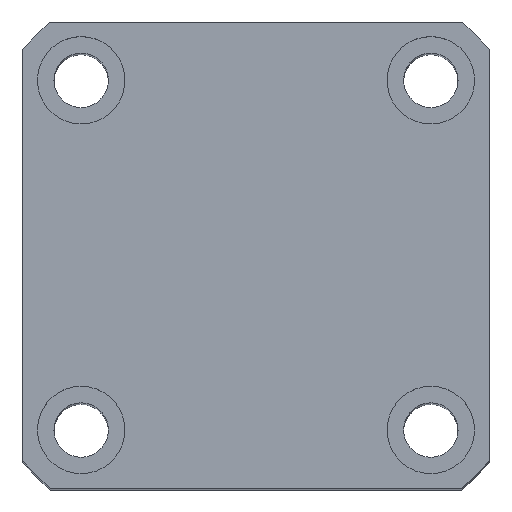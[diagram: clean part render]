
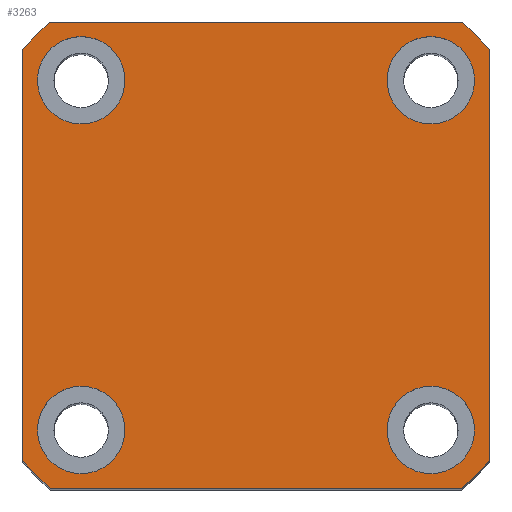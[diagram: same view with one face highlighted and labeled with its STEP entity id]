
A CAD part, top view. The second image highlights one B-rep face of the part: STEP entity #3263.
In plain terms, the highlighted planar face has unit normal (0, 0, 1) as drawn and (1, 0, 0) by its records, which use the part's own axes.
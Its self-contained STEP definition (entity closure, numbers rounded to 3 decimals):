
#14 = CARTESIAN_POINT ( 'NONE',  ( 105., 24., 21.166 ) ) ;
#86 = CIRCLE ( 'NONE', #2182, 4.5 ) ;
#116 = CARTESIAN_POINT ( 'NONE',  ( 105., 24., -21.166 ) ) ;
#147 = EDGE_CURVE ( 'NONE', #1904, #211, #4562, .T. ) ;
#211 = VERTEX_POINT ( 'NONE', #4407 ) ;
#230 = CARTESIAN_POINT ( 'NONE',  ( 105., -18., -13.5 ) ) ;
#269 = CIRCLE ( 'NONE', #853, 4.5 ) ;
#294 = VECTOR ( 'NONE', #6448, 1000. ) ;
#410 = EDGE_LOOP ( 'NONE', ( #3171, #1523 ) ) ;
#605 = CARTESIAN_POINT ( 'NONE',  ( 105., 18., 13.5 ) ) ;
#690 = DIRECTION ( 'NONE',  ( 1., 0., 0. ) ) ;
#749 = CIRCLE ( 'NONE', #1299, 32. ) ;
#853 = AXIS2_PLACEMENT_3D ( 'NONE', #5718, #2062, #6330 ) ;
#1184 = ORIENTED_EDGE ( 'NONE', *, *, #6165, .F. ) ;
#1268 = DIRECTION ( 'NONE',  ( 1., 0., 0. ) ) ;
#1299 = AXIS2_PLACEMENT_3D ( 'NONE', #2387, #5491, #1787 ) ;
#1329 = VERTEX_POINT ( 'NONE', #5703 ) ;
#1373 = AXIS2_PLACEMENT_3D ( 'NONE', #6855, #3209, #7497 ) ;
#1390 = EDGE_CURVE ( 'NONE', #5564, #4987, #86, .T. ) ;
#1474 = EDGE_CURVE ( 'NONE', #2074, #2312, #7877, .T. ) ;
#1514 = CARTESIAN_POINT ( 'NONE',  ( 105., 18., 18. ) ) ;
#1523 = ORIENTED_EDGE ( 'NONE', *, *, #7178, .F. ) ;
#1692 = CARTESIAN_POINT ( 'NONE',  ( 105., -24., 21.166 ) ) ;
#1702 = FACE_BOUND ( 'NONE', #410, .T. ) ;
#1787 = DIRECTION ( 'NONE',  ( 0., 0., -1. ) ) ;
#1788 = VERTEX_POINT ( 'NONE', #605 ) ;
#1904 = VERTEX_POINT ( 'NONE', #4294 ) ;
#1946 = VERTEX_POINT ( 'NONE', #116 ) ;
#2018 = ORIENTED_EDGE ( 'NONE', *, *, #6705, .T. ) ;
#2024 = ORIENTED_EDGE ( 'NONE', *, *, #5172, .T. ) ;
#2062 = DIRECTION ( 'NONE',  ( 1., 0., 0. ) ) ;
#2074 = VERTEX_POINT ( 'NONE', #4124 ) ;
#2128 = CARTESIAN_POINT ( 'NONE',  ( 105., 24., 24. ) ) ;
#2147 = DIRECTION ( 'NONE',  ( 0., 0., -1. ) ) ;
#2156 = CARTESIAN_POINT ( 'NONE',  ( 105., 18., 18. ) ) ;
#2163 = CARTESIAN_POINT ( 'NONE',  ( 105., 0., 0. ) ) ;
#2182 = AXIS2_PLACEMENT_3D ( 'NONE', #6687, #6007, #5904 ) ;
#2215 = ORIENTED_EDGE ( 'NONE', *, *, #4808, .T. ) ;
#2295 = VECTOR ( 'NONE', #7752, 1000. ) ;
#2299 = AXIS2_PLACEMENT_3D ( 'NONE', #1514, #5800, #2147 ) ;
#2312 = VERTEX_POINT ( 'NONE', #1692 ) ;
#2387 = CARTESIAN_POINT ( 'NONE',  ( 105., 0., 0. ) ) ;
#2412 = ORIENTED_EDGE ( 'NONE', *, *, #2894, .T. ) ;
#2428 = DIRECTION ( 'NONE',  ( 1., 0., 0. ) ) ;
#2480 = EDGE_CURVE ( 'NONE', #5771, #2074, #7496, .T. ) ;
#2524 = AXIS2_PLACEMENT_3D ( 'NONE', #2715, #6971, #3319 ) ;
#2533 = CARTESIAN_POINT ( 'NONE',  ( 105., 21.166, 24. ) ) ;
#2573 = EDGE_CURVE ( 'NONE', #6506, #3183, #749, .T. ) ;
#2575 = CARTESIAN_POINT ( 'NONE',  ( 105., -24., -21.166 ) ) ;
#2596 = VECTOR ( 'NONE', #6173, 1000. ) ;
#2688 = ORIENTED_EDGE ( 'NONE', *, *, #7418, .F. ) ;
#2715 = CARTESIAN_POINT ( 'NONE',  ( 105., 18., -18. ) ) ;
#2772 = DIRECTION ( 'NONE',  ( 0., 0., -1. ) ) ;
#2779 = DIRECTION ( 'NONE',  ( 0., 0., -1. ) ) ;
#2894 = EDGE_CURVE ( 'NONE', #3183, #3603, #7176, .T. ) ;
#3003 = CIRCLE ( 'NONE', #2299, 4.5 ) ;
#3089 = CARTESIAN_POINT ( 'NONE',  ( 105., 24., 24. ) ) ;
#3171 = ORIENTED_EDGE ( 'NONE', *, *, #7147, .F. ) ;
#3174 = CIRCLE ( 'NONE', #1373, 4.5 ) ;
#3181 = AXIS2_PLACEMENT_3D ( 'NONE', #3495, #7797, #4104 ) ;
#3183 = VERTEX_POINT ( 'NONE', #7394 ) ;
#3192 = AXIS2_PLACEMENT_3D ( 'NONE', #4379, #690, #4983 ) ;
#3202 = ORIENTED_EDGE ( 'NONE', *, *, #1390, .F. ) ;
#3209 = DIRECTION ( 'NONE',  ( 1., 0., 0. ) ) ;
#3234 = AXIS2_PLACEMENT_3D ( 'NONE', #2163, #6427, #2779 ) ;
#3263 = ADVANCED_FACE ( 'NONE', ( #4976, #6394, #1702, #6788, #3348 ), #4812, .T. ) ;
#3316 = CARTESIAN_POINT ( 'NONE',  ( 105., 21.166, -24. ) ) ;
#3319 = DIRECTION ( 'NONE',  ( 0., 0., -1. ) ) ;
#3348 = FACE_OUTER_BOUND ( 'NONE', #4874, .T. ) ;
#3359 = CIRCLE ( 'NONE', #2524, 4.5 ) ;
#3462 = ORIENTED_EDGE ( 'NONE', *, *, #2480, .T. ) ;
#3495 = CARTESIAN_POINT ( 'NONE',  ( 105., 0., 0. ) ) ;
#3548 = ORIENTED_EDGE ( 'NONE', *, *, #2573, .T. ) ;
#3584 = LINE ( 'NONE', #2128, #294 ) ;
#3603 = VERTEX_POINT ( 'NONE', #3316 ) ;
#3824 = ORIENTED_EDGE ( 'NONE', *, *, #7873, .F. ) ;
#3873 = CARTESIAN_POINT ( 'NONE',  ( 105., -18., 18. ) ) ;
#3882 = LINE ( 'NONE', #3934, #7331 ) ;
#3926 = EDGE_LOOP ( 'NONE', ( #1184, #2688 ) ) ;
#3934 = CARTESIAN_POINT ( 'NONE',  ( 105., -24., 24. ) ) ;
#4062 = CARTESIAN_POINT ( 'NONE',  ( 105., 24., -24. ) ) ;
#4104 = DIRECTION ( 'NONE',  ( 0., 0., -1. ) ) ;
#4124 = CARTESIAN_POINT ( 'NONE',  ( 105., -21.166, 24. ) ) ;
#4294 = CARTESIAN_POINT ( 'NONE',  ( 105., -18., 13.5 ) ) ;
#4379 = CARTESIAN_POINT ( 'NONE',  ( 105., -18., 18. ) ) ;
#4407 = CARTESIAN_POINT ( 'NONE',  ( 105., -18., 22.5 ) ) ;
#4486 = EDGE_CURVE ( 'NONE', #2312, #6506, #3882, .T. ) ;
#4511 = ORIENTED_EDGE ( 'NONE', *, *, #1474, .T. ) ;
#4515 = CIRCLE ( 'NONE', #3192, 4.5 ) ;
#4562 = CIRCLE ( 'NONE', #5607, 4.5 ) ;
#4648 = AXIS2_PLACEMENT_3D ( 'NONE', #4766, #4741, #5416 ) ;
#4741 = DIRECTION ( 'NONE',  ( 1., 0., 0. ) ) ;
#4766 = CARTESIAN_POINT ( 'NONE',  ( 105., 0., 0. ) ) ;
#4802 = ORIENTED_EDGE ( 'NONE', *, *, #147, .F. ) ;
#4808 = EDGE_CURVE ( 'NONE', #3603, #1946, #6162, .T. ) ;
#4812 = PLANE ( 'NONE',  #5259 ) ;
#4874 = EDGE_LOOP ( 'NONE', ( #2412, #2215, #2024, #2018, #3462, #4511, #6693, #3548 ) ) ;
#4945 = CARTESIAN_POINT ( 'NONE',  ( 105., 0., 0. ) ) ;
#4976 = FACE_BOUND ( 'NONE', #6985, .T. ) ;
#4983 = DIRECTION ( 'NONE',  ( 0., 0., -1. ) ) ;
#4987 = VERTEX_POINT ( 'NONE', #6074 ) ;
#5012 = EDGE_LOOP ( 'NONE', ( #4802, #6629 ) ) ;
#5087 = CIRCLE ( 'NONE', #7854, 4.5 ) ;
#5158 = DIRECTION ( 'NONE',  ( 0., 0., -1. ) ) ;
#5172 = EDGE_CURVE ( 'NONE', #1946, #7017, #3584, .T. ) ;
#5259 = AXIS2_PLACEMENT_3D ( 'NONE', #4945, #1268, #5566 ) ;
#5416 = DIRECTION ( 'NONE',  ( 0., 0., -1. ) ) ;
#5476 = VERTEX_POINT ( 'NONE', #7563 ) ;
#5491 = DIRECTION ( 'NONE',  ( 1., 0., 0. ) ) ;
#5564 = VERTEX_POINT ( 'NONE', #230 ) ;
#5566 = DIRECTION ( 'NONE',  ( 0., 0., -1. ) ) ;
#5607 = AXIS2_PLACEMENT_3D ( 'NONE', #3873, #2428, #6311 ) ;
#5703 = CARTESIAN_POINT ( 'NONE',  ( 105., 18., -13.5 ) ) ;
#5718 = CARTESIAN_POINT ( 'NONE',  ( 105., 18., -18. ) ) ;
#5771 = VERTEX_POINT ( 'NONE', #2533 ) ;
#5800 = DIRECTION ( 'NONE',  ( 1., 0., 0. ) ) ;
#5823 = CARTESIAN_POINT ( 'NONE',  ( 105., 18., 22.5 ) ) ;
#5904 = DIRECTION ( 'NONE',  ( 0., 0., -1. ) ) ;
#6007 = DIRECTION ( 'NONE',  ( 1., 0., 0. ) ) ;
#6074 = CARTESIAN_POINT ( 'NONE',  ( 105., -18., -22.5 ) ) ;
#6162 = CIRCLE ( 'NONE', #3181, 32. ) ;
#6165 = EDGE_CURVE ( 'NONE', #1788, #6216, #3003, .T. ) ;
#6173 = DIRECTION ( 'NONE',  ( 0., -1., 0. ) ) ;
#6216 = VERTEX_POINT ( 'NONE', #5823 ) ;
#6311 = DIRECTION ( 'NONE',  ( 0., 0., -1. ) ) ;
#6330 = DIRECTION ( 'NONE',  ( 0., 0., -1. ) ) ;
#6394 = FACE_BOUND ( 'NONE', #5012, .T. ) ;
#6421 = DIRECTION ( 'NONE',  ( 1., 0., 0. ) ) ;
#6424 = CIRCLE ( 'NONE', #3234, 32. ) ;
#6427 = DIRECTION ( 'NONE',  ( 1., 0., 0. ) ) ;
#6448 = DIRECTION ( 'NONE',  ( 0., 0., 1. ) ) ;
#6506 = VERTEX_POINT ( 'NONE', #2575 ) ;
#6629 = ORIENTED_EDGE ( 'NONE', *, *, #7557, .F. ) ;
#6687 = CARTESIAN_POINT ( 'NONE',  ( 105., -18., -18. ) ) ;
#6693 = ORIENTED_EDGE ( 'NONE', *, *, #4486, .T. ) ;
#6705 = EDGE_CURVE ( 'NONE', #7017, #5771, #6424, .T. ) ;
#6788 = FACE_BOUND ( 'NONE', #3926, .T. ) ;
#6855 = CARTESIAN_POINT ( 'NONE',  ( 105., -18., -18. ) ) ;
#6971 = DIRECTION ( 'NONE',  ( 1., 0., 0. ) ) ;
#6985 = EDGE_LOOP ( 'NONE', ( #3824, #3202 ) ) ;
#7017 = VERTEX_POINT ( 'NONE', #14 ) ;
#7147 = EDGE_CURVE ( 'NONE', #5476, #1329, #269, .T. ) ;
#7176 = LINE ( 'NONE', #4062, #2295 ) ;
#7178 = EDGE_CURVE ( 'NONE', #1329, #5476, #3359, .T. ) ;
#7331 = VECTOR ( 'NONE', #5158, 1000. ) ;
#7394 = CARTESIAN_POINT ( 'NONE',  ( 105., -21.166, -24. ) ) ;
#7418 = EDGE_CURVE ( 'NONE', #6216, #1788, #5087, .T. ) ;
#7496 = LINE ( 'NONE', #3089, #2596 ) ;
#7497 = DIRECTION ( 'NONE',  ( 0., 0., -1. ) ) ;
#7557 = EDGE_CURVE ( 'NONE', #211, #1904, #4515, .T. ) ;
#7563 = CARTESIAN_POINT ( 'NONE',  ( 105., 18., -22.5 ) ) ;
#7752 = DIRECTION ( 'NONE',  ( 0., 1., 0. ) ) ;
#7797 = DIRECTION ( 'NONE',  ( 1., 0., 0. ) ) ;
#7854 = AXIS2_PLACEMENT_3D ( 'NONE', #2156, #6421, #2772 ) ;
#7873 = EDGE_CURVE ( 'NONE', #4987, #5564, #3174, .T. ) ;
#7877 = CIRCLE ( 'NONE', #4648, 32. ) ;
